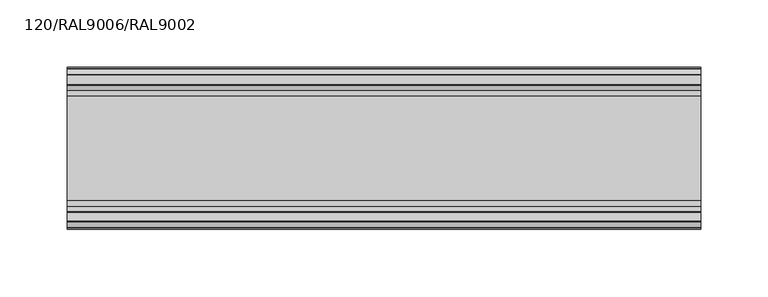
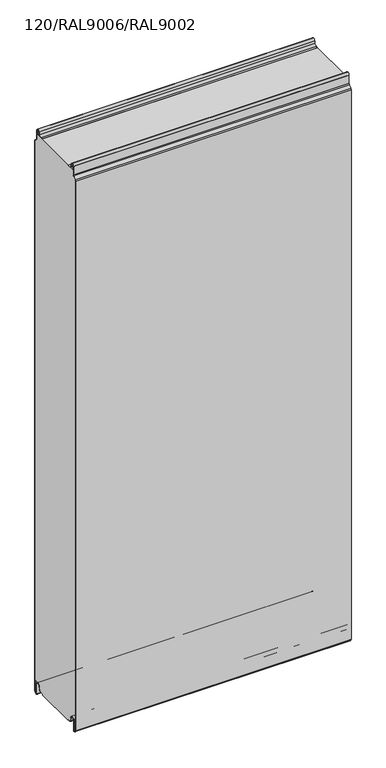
"""IFC4 building model written with IfcOpenShell, lengths in millimetres: plate geometry, TR_C_H_FTV_Panel : 120/RAL9006/RAL9002."""

from ifc_helpers import new_model, si_unit, point, frame, frame_2d, origin, place, context, project, spatial, polyline, circle_curve, trimmed, segment, composite_curve, outline, extrude, source, transform, mapped, element, save


def plate_120_ral9006_ral9002_a1a76ba9(model_context):
    return source(origin(), model_context, "Body", "SweptSolid", [
        extrude(outline(composite_curve([segment(polyline([(-0.8, 14.4000012), (-9.45, 14.4000012)]), True, "CONTINUOUS"), segment(trimmed(circle_curve(frame_2d((-9.45, 10.1500012)), 4.25), [point((-9.45, 14.4000012))], [point((-13.635433, 10.8880059))], True, "CARTESIAN"), True, "CONTINUOUS"), segment(polyline([(-13.635433, 10.8880059), (-14.7022582, 4.837739)]), True, "CONTINUOUS"), segment(trimmed(circle_curve(frame_2d((-17.6074411, 5.3500012)), 2.95), [point((-14.7022582, 4.837739))], [point((-17.6074411, 2.4000012))], False, "CARTESIAN"), True, "CONTINUOUS"), segment(polyline([(-17.6074411, 2.4000012), (-23.7, 2.4000012), (-23.7, 1.2e-06), (-96.3, 1.2e-06), (-96.3, 2.4000012), (-102.3925589, 2.4000012)]), True, "CONTINUOUS"), segment(trimmed(circle_curve(frame_2d((-102.3925589, 5.3500012)), 2.95), [point((-102.3925589, 2.4000012))], [point((-105.2977418, 4.837739))], False, "CARTESIAN"), True, "CONTINUOUS"), segment(polyline([(-105.2977418, 4.837739), (-106.364567, 10.8880059)]), True, "CONTINUOUS"), segment(trimmed(circle_curve(frame_2d((-110.55, 10.1500012)), 4.25), [point((-106.364567, 10.8880059))], [point((-110.55, 14.4000012))], True, "CARTESIAN"), True, "CONTINUOUS"), segment(polyline([(-110.55, 14.4000012), (-119.2, 14.4000012), (-119.2, 984.3218266)]), True, "CONTINUOUS"), segment(trimmed(circle_curve(frame_2d((-117.0, 984.3218266)), 2.2), [point((-119.2, 984.3218266))], [point((-118.5556349, 985.8774615))], False, "CARTESIAN"), True, "CONTINUOUS"), segment(polyline([(-118.5556349, 985.8774615), (-114.1665476, 990.2665488)]), True, "CONTINUOUS"), segment(trimmed(circle_curve(frame_2d((-116.5, 992.6000012)), 3.3), [point((-114.1665476, 990.2665488))], [point((-113.2, 992.6000012))], True, "CARTESIAN"), True, "CONTINUOUS"), segment(polyline([(-113.2, 992.6000012), (-113.2, 1000.0), (-6.8, 1000.0), (-6.8, 992.6000012)]), True, "CONTINUOUS"), segment(trimmed(circle_curve(frame_2d((-3.5, 992.6000012)), 3.3), [point((-6.8, 992.6000012))], [point((-5.8334524, 990.2665488))], True, "CARTESIAN"), True, "CONTINUOUS"), segment(polyline([(-5.8334524, 990.2665488), (-1.4443651, 985.8774615)]), True, "CONTINUOUS"), segment(trimmed(circle_curve(frame_2d((-3.0, 984.3218266)), 2.2), [point((-1.4443651, 985.8774615))], [point((-0.8, 984.3218266))], False, "CARTESIAN"), True, "CONTINUOUS"), segment(polyline([(-0.8, 984.3218266), (-0.8, 14.4000012)]), True, "CONTINUOUS")], self_intersect=False)), frame((-235.0, 0.0, 0.0), z_axis=(1.0, 0.0, 0.0), x_axis=(0.0, 1.0, 0.0)), (0.0, 0.0, 1.0), 470.0),
        extrude(outline(composite_curve([segment(polyline([(-21.0, 2.4000012), (-17.6074411, 2.4000012)]), True, "CONTINUOUS"), segment(trimmed(circle_curve(frame_2d((-17.6074411, 5.3500012)), 2.95), [point((-17.6074411, 2.4000012))], [point((-14.7022582, 4.837739))], True, "CARTESIAN"), True, "CONTINUOUS"), segment(polyline([(-14.7022582, 4.837739), (-13.635433, 10.8880059)]), True, "CONTINUOUS"), segment(trimmed(circle_curve(frame_2d((-9.45, 10.1500012)), 4.25), [point((-13.635433, 10.8880059))], [point((-5.2, 10.1500012))], False, "CARTESIAN"), True, "CONTINUOUS"), segment(polyline([(-5.2, 10.1500012), (-5.2, -7.4499988)]), True, "CONTINUOUS"), segment(trimmed(circle_curve(frame_2d((-4.05, -7.4499988)), 1.15), [point((-5.2, -7.4499988))], [point((-3.2368272, -8.2631716))], True, "CARTESIAN"), True, "CONTINUOUS"), segment(polyline([(-3.2368272, -8.2631716), (-1.3711418, -6.3974862)]), True, "CONTINUOUS"), segment(trimmed(circle_curve(frame_2d((-2.75, -5.018628)), 1.95), [point((-1.3711418, -6.3974862))], [point((-0.8, -5.018628))], True, "CARTESIAN"), True, "CONTINUOUS"), segment(polyline([(-0.8, -5.018628), (-0.8, 984.3218266)]), True, "CONTINUOUS"), segment(trimmed(circle_curve(frame_2d((-3.0, 984.3218266)), 2.2), [point((-0.8, 984.3218266))], [point((-1.4443651, 985.8774615))], True, "CARTESIAN"), True, "CONTINUOUS"), segment(polyline([(-1.4443651, 985.8774615), (-5.8334524, 990.2665488)]), True, "CONTINUOUS"), segment(trimmed(circle_curve(frame_2d((-3.5, 992.6000012)), 3.3), [point((-5.8334524, 990.2665488))], [point((-6.8, 992.6000012))], False, "CARTESIAN"), True, "CONTINUOUS"), segment(polyline([(-6.8, 992.6000012), (-6.8, 1007.3500012)]), True, "CONTINUOUS"), segment(trimmed(circle_curve(frame_2d((-9.25, 1007.3500012)), 2.45), [point((-6.8, 1007.3500012))], [point((-11.662779, 1007.7754392))], True, "CARTESIAN"), True, "CONTINUOUS"), segment(polyline([(-11.662779, 1007.7754392), (-12.4060919, 1003.559902)]), True, "CONTINUOUS"), segment(trimmed(circle_curve(frame_2d((-16.8869672, 1004.3500012)), 4.55), [point((-12.4060919, 1003.559902))], [point((-16.8869672, 999.8000012))], False, "CARTESIAN"), True, "CONTINUOUS"), segment(polyline([(-16.8869672, 999.8000012), (-21.0, 999.8000012), (-21.0, 1000.6000012), (-16.8869672, 1000.6000012)]), True, "CONTINUOUS"), segment(trimmed(circle_curve(frame_2d((-16.8869672, 1004.3500012)), 3.75), [point((-16.8869672, 1000.6000012))], [point((-13.1939382, 1003.6988205))], True, "CARTESIAN"), True, "CONTINUOUS"), segment(polyline([(-13.1939382, 1003.6988205), (-12.4506252, 1007.9143577)]), True, "CONTINUOUS"), segment(trimmed(circle_curve(frame_2d((-9.25, 1007.3500012)), 3.25), [point((-12.4506252, 1007.9143577))], [point((-6.0, 1007.3500012))], False, "CARTESIAN"), True, "CONTINUOUS"), segment(polyline([(-6.0, 1007.3500012), (-6.0, 992.6000012)]), True, "CONTINUOUS"), segment(trimmed(circle_curve(frame_2d((-3.5, 992.6000012)), 2.5), [point((-6.0, 992.6000012))], [point((-5.267767, 990.8322342))], True, "CARTESIAN"), True, "CONTINUOUS"), segment(polyline([(-5.267767, 990.8322342), (-0.8786797, 986.4431469)]), True, "CONTINUOUS"), segment(trimmed(circle_curve(frame_2d((-3.0, 984.3218266)), 3.0), [point((-0.8786797, 986.4431469))], [point((0.0, 984.3218266))], False, "CARTESIAN"), True, "CONTINUOUS"), segment(polyline([(0.0, 984.3218266), (0.0, -5.018628)]), True, "CONTINUOUS"), segment(trimmed(circle_curve(frame_2d((-2.75, -5.018628)), 2.75), [point((0.0, -5.018628))], [point((-0.8054564, -6.9631716))], False, "CARTESIAN"), True, "CONTINUOUS"), segment(polyline([(-0.8054564, -6.9631716), (-2.6711418, -8.8288571)]), True, "CONTINUOUS"), segment(trimmed(circle_curve(frame_2d((-4.05, -7.4499988)), 1.95), [point((-2.6711418, -8.8288571))], [point((-6.0, -7.4499988))], False, "CARTESIAN"), True, "CONTINUOUS"), segment(polyline([(-6.0, -7.4499988), (-6.0, 10.1500012)]), True, "CONTINUOUS"), segment(trimmed(circle_curve(frame_2d((-9.45, 10.1500012)), 3.45), [point((-6.0, 10.1500012))], [point((-12.8475867, 10.7490874))], True, "CARTESIAN"), True, "CONTINUOUS"), segment(polyline([(-12.8475867, 10.7490874), (-13.914412, 4.6988205)]), True, "CONTINUOUS"), segment(trimmed(circle_curve(frame_2d((-17.6074411, 5.3500012)), 3.75), [point((-13.914412, 4.6988205))], [point((-17.6074411, 1.6000012))], False, "CARTESIAN"), True, "CONTINUOUS"), segment(polyline([(-17.6074411, 1.6000012), (-21.0, 1.6000012), (-21.0, 2.4000012)]), True, "CONTINUOUS")], self_intersect=False)), frame((-235.0, 0.0, 0.0), z_axis=(1.0, 0.0, 0.0), x_axis=(0.0, 1.0, 0.0)), (0.0, 0.0, 1.0), 470.0),
        extrude(outline(composite_curve([segment(trimmed(circle_curve(frame_2d((-103.1130328, 1004.3500012)), 4.55), [point((-103.1130328, 999.8000012))], [point((-107.5939081, 1003.559902))], False, "CARTESIAN"), True, "CONTINUOUS"), segment(polyline([(-107.5939081, 1003.559902), (-108.337221, 1007.7754392)]), True, "CONTINUOUS"), segment(trimmed(circle_curve(frame_2d((-110.75, 1007.3500012)), 2.45), [point((-108.337221, 1007.7754392))], [point((-113.2, 1007.3500012))], True, "CARTESIAN"), True, "CONTINUOUS"), segment(polyline([(-113.2, 1007.3500012), (-113.2, 992.6000012)]), True, "CONTINUOUS"), segment(trimmed(circle_curve(frame_2d((-116.5, 992.6000012)), 3.3), [point((-113.2, 992.6000012))], [point((-114.1665476, 990.2665488))], False, "CARTESIAN"), True, "CONTINUOUS"), segment(polyline([(-114.1665476, 990.2665488), (-118.5556349, 985.8774615)]), True, "CONTINUOUS"), segment(trimmed(circle_curve(frame_2d((-117.0, 984.3218266)), 2.2), [point((-118.5556349, 985.8774615))], [point((-119.2, 984.3218266))], True, "CARTESIAN"), True, "CONTINUOUS"), segment(polyline([(-119.2, 984.3218266), (-119.2, -5.018628)]), True, "CONTINUOUS"), segment(trimmed(circle_curve(frame_2d((-117.25, -5.018628)), 1.95), [point((-119.2, -5.018628))], [point((-118.6288582, -6.3974862))], True, "CARTESIAN"), True, "CONTINUOUS"), segment(polyline([(-118.6288582, -6.3974862), (-116.7631728, -8.2631716)]), True, "CONTINUOUS"), segment(trimmed(circle_curve(frame_2d((-115.95, -7.4499988)), 1.15), [point((-116.7631728, -8.2631716))], [point((-114.8, -7.4499988))], True, "CARTESIAN"), True, "CONTINUOUS"), segment(polyline([(-114.8, -7.4499988), (-114.8, 10.1500012)]), True, "CONTINUOUS"), segment(trimmed(circle_curve(frame_2d((-110.55, 10.1500012)), 4.25), [point((-114.8, 10.1500012))], [point((-106.364567, 10.8880059))], False, "CARTESIAN"), True, "CONTINUOUS"), segment(polyline([(-106.364567, 10.8880059), (-105.2977418, 4.837739)]), True, "CONTINUOUS"), segment(trimmed(circle_curve(frame_2d((-102.3925589, 5.3500012)), 2.95), [point((-105.2977418, 4.837739))], [point((-102.3925589, 2.4000012))], True, "CARTESIAN"), True, "CONTINUOUS"), segment(polyline([(-102.3925589, 2.4000012), (-99.0, 2.4000012), (-99.0, 1.6000012), (-102.3925589, 1.6000012)]), True, "CONTINUOUS"), segment(trimmed(circle_curve(frame_2d((-102.3925589, 5.3500012)), 3.75), [point((-102.3925589, 1.6000012))], [point((-106.085588, 4.6988205))], False, "CARTESIAN"), True, "CONTINUOUS"), segment(polyline([(-106.085588, 4.6988205), (-107.1524133, 10.7490874)]), True, "CONTINUOUS"), segment(trimmed(circle_curve(frame_2d((-110.55, 10.1500012)), 3.45), [point((-107.1524133, 10.7490874))], [point((-114.0, 10.1500012))], True, "CARTESIAN"), True, "CONTINUOUS"), segment(polyline([(-114.0, 10.1500012), (-114.0, -7.4499988)]), True, "CONTINUOUS"), segment(trimmed(circle_curve(frame_2d((-115.95, -7.4499988)), 1.95), [point((-114.0, -7.4499988))], [point((-117.3288582, -8.8288571))], False, "CARTESIAN"), True, "CONTINUOUS"), segment(polyline([(-117.3288582, -8.8288571), (-119.1945436, -6.9631716)]), True, "CONTINUOUS"), segment(trimmed(circle_curve(frame_2d((-117.25, -5.018628)), 2.75), [point((-119.1945436, -6.9631716))], [point((-120.0, -5.018628))], False, "CARTESIAN"), True, "CONTINUOUS"), segment(polyline([(-120.0, -5.018628), (-120.0, 984.3218266)]), True, "CONTINUOUS"), segment(trimmed(circle_curve(frame_2d((-117.0, 984.3218266)), 3.0), [point((-120.0, 984.3218266))], [point((-119.1213203, 986.4431469))], False, "CARTESIAN"), True, "CONTINUOUS"), segment(polyline([(-119.1213203, 986.4431469), (-114.732233, 990.8322342)]), True, "CONTINUOUS"), segment(trimmed(circle_curve(frame_2d((-116.5, 992.6000012)), 2.5), [point((-114.732233, 990.8322342))], [point((-114.0, 992.6000012))], True, "CARTESIAN"), True, "CONTINUOUS"), segment(polyline([(-114.0, 992.6000012), (-114.0, 1007.3500012)]), True, "CONTINUOUS"), segment(trimmed(circle_curve(frame_2d((-110.75, 1007.3500012)), 3.25), [point((-114.0, 1007.3500012))], [point((-107.5493748, 1007.9143577))], False, "CARTESIAN"), True, "CONTINUOUS"), segment(polyline([(-107.5493748, 1007.9143577), (-106.8060618, 1003.6988205)]), True, "CONTINUOUS"), segment(trimmed(circle_curve(frame_2d((-103.1130328, 1004.3500012)), 3.75), [point((-106.8060618, 1003.6988205))], [point((-103.1130328, 1000.6000012))], True, "CARTESIAN"), True, "CONTINUOUS"), segment(polyline([(-103.1130328, 1000.6000012), (-99.0, 1000.6000012), (-99.0, 999.8000012), (-103.1130328, 999.8000012)]), True, "CONTINUOUS")], self_intersect=False)), frame((-235.0, 0.0, 0.0), z_axis=(1.0, 0.0, 0.0), x_axis=(0.0, 1.0, 0.0)), (0.0, 0.0, 1.0), 470.0),
    ])


if __name__ == "__main__":
    model = new_model("IFC4")
    model_context = context("Model", 3, world=origin())
    ifc_project = project(units=[si_unit("LENGTHUNIT", "METRE", prefix="MILLI")], contexts=[model_context])
    site = spatial("IfcSite", under=ifc_project)
    building = spatial("IfcBuilding", under=site)
    placement = place(None, origin())
    plate_120_ral9006_ral9002_shape = plate_120_ral9006_ral9002_a1a76ba9(model_context)
    element("IfcPlate", 1, ObjectType="TR_C_H_FTV_Panel : 120/RAL9006/RAL9002", at=placement, inside=building, context=model_context, shape_type="MappedRepresentation", body=[
        mapped(plate_120_ral9006_ral9002_shape, transform((0.0, 0.0, 0.0), x_axis=(1.0, 0.0, 0.0), y_axis=(0.0, 1.0, 0.0), z_axis=(0.0, 0.0, 1.0))),
    ])
    save(model, "model.ifc")
